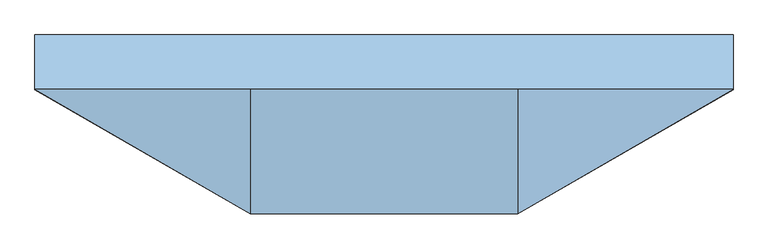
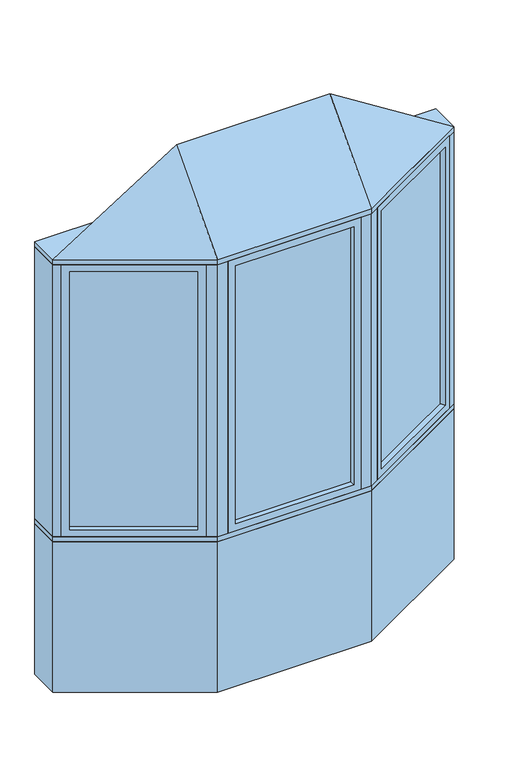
"""IFC4 building model written with IfcOpenShell, lengths in millimetres: window geometry, Pollard_Windows_Tudor Casement Bows and Bays : AML-BAY 30 AFR0614-08-600."""

import ifcopenshell
import ifcopenshell.guid

model = None  # the IFC model being written
_history = None  # IfcOwnerHistory: only IFC2X3 demands one
_inside = {}  # id of a spatial element -> (the spatial element, [elements in it])
_under = {}  # id of a project, library or spatial element -> (it, [spatial elements below it])
_declared = {}  # id of a project -> (the project, [libraries it declares])
_typed = {}  # id of a type object -> (the type object, [elements of that type])
_made_of = {}  # id of a material, layer set ... -> (it, [elements and type objects made of it])


def new_model(schema):
    """Start an empty IFC model of exactly this schema.

    Asked for "IFC4X3", IfcOpenShell would pick the latest addendum, in which some entities
    have other attributes; the version numbers below select the first issue.
    IFC2X3 requires an IfcOwnerHistory on every rooted entity: one is made here for all.
    """
    global model, _history
    if schema == "IFC4X3":
        model = ifcopenshell.file(schema_version=(4, 3, 0, 0))
    else:
        model = ifcopenshell.file(schema=schema)
    _inside.clear()
    _under.clear()
    _declared.clear()
    _typed.clear()
    _made_of.clear()
    _history = None
    if model.schema == "IFC2X3":
        org = make("IfcOrganization", Name="unknown")
        user = make(
            "IfcPersonAndOrganization",
            ThePerson=make("IfcPerson", FamilyName="unknown"),
            TheOrganization=org,
        )
        app = make(
            "IfcApplication",
            ApplicationDeveloper=org,
            Version="unknown",
            ApplicationFullName="unknown",
            ApplicationIdentifier="unknown",
        )
        _history = make(
            "IfcOwnerHistory",
            OwningUser=user,
            OwningApplication=app,
            ChangeAction="ADDED",
            CreationDate=0,
        )
    return model


def make(cls, **values):
    """One entity of the class cls with the attributes given. An attribute that is None is left unset."""
    return model.create_entity(
        cls, **{name: value for name, value in values.items() if value is not None}
    )


def rooted(cls, **values):
    """An entity with a GlobalId (a new one), such as an element, a storey or a relation."""
    return make(cls, GlobalId=ifcopenshell.guid.new(), OwnerHistory=_history, **values)


def si_unit(unit_type, name, prefix=None):
    """IfcSIUnit, for example si_unit("LENGTHUNIT", "METRE", prefix="MILLI")."""
    return make("IfcSIUnit", UnitType=unit_type, Prefix=prefix, Name=name)


def assignment(units):
    """IfcUnitAssignment: the units of a project."""
    return None if units is None else make("IfcUnitAssignment", Units=units)


def point(xyz):
    """IfcCartesianPoint."""
    return None if xyz is None else make("IfcCartesianPoint", Coordinates=xyz)


def direction(xyz):
    """IfcDirection."""
    return None if xyz is None else make("IfcDirection", DirectionRatios=xyz)


def frame(location, z_axis=None, x_axis=None):
    """IfcAxis2Placement3D, a coordinate frame: its origin and axes. An axis left out is left unset."""
    return make(
        "IfcAxis2Placement3D",
        Location=point(location),
        Axis=direction(z_axis),
        RefDirection=direction(x_axis),
    )


def origin():
    """The frame at (0, 0, 0) with its axes left unset."""
    return frame((0.0, 0.0, 0.0))


def origin_with_axes():
    """The frame at (0, 0, 0) with the z axis (0, 0, 1) and the x axis (1, 0, 0) written out."""
    return frame((0.0, 0.0, 0.0), z_axis=(0.0, 0.0, 1.0), x_axis=(1.0, 0.0, 0.0))


def place(relative_to, where):
    """IfcLocalPlacement: puts the frame where relative to a parent placement (None: the world)."""
    return make(
        "IfcLocalPlacement", PlacementRelTo=relative_to, RelativePlacement=where
    )


def context(
    kind, dimensions, precision=None, world=None, true_north=None, identifier=None
):
    """IfcGeometricRepresentationContext, for example the 3D "Model" context."""
    return make(
        "IfcGeometricRepresentationContext",
        ContextIdentifier=identifier,
        ContextType=kind,
        CoordinateSpaceDimension=dimensions,
        Precision=precision,
        WorldCoordinateSystem=world,
        TrueNorth=true_north,
    )


def project(units=None, contexts=None):
    """IfcProject with its units and contexts."""
    return rooted(
        "IfcProject",
        Name="project",
        RepresentationContexts=contexts,
        UnitsInContext=assignment(units),
    )


def spatial(cls, under=None, at=None, **own):
    """A site, building, storey or space (cls), placed at a placement, below another one or the project."""
    s = rooted(cls, ObjectPlacement=at, **own)
    if under is not None:
        _under.setdefault(under.id(), (under, []))[1].append(s)
    return s


def polyline(points):
    """IfcPolyline through the points."""
    return make("IfcPolyline", Points=[point(p) for p in points])


def outline(outer, holes=None, kind="AREA"):
    """IfcArbitraryClosedProfileDef: a profile drawn as a closed curve; with holes, ...WithVoids."""
    if holes is None:
        return make("IfcArbitraryClosedProfileDef", ProfileType=kind, OuterCurve=outer)
    return make(
        "IfcArbitraryProfileDefWithVoids",
        ProfileType=kind,
        OuterCurve=outer,
        InnerCurves=holes,
    )


def extrude(swept, where, along, depth):
    """IfcExtrudedAreaSolid: the profile swept, set in the frame where, extruded along a direction by depth."""
    return make(
        "IfcExtrudedAreaSolid",
        SweptArea=swept,
        Position=where,
        ExtrudedDirection=direction(along),
        Depth=depth,
    )


def faces_of(points, faces, orient=None, outer=None):
    """IfcFace entities. A face is a list of loops; a loop is a list of indices into points, from 0.

    orient and outer hold one flag for each loop. By default every Orientation is true, the
    first loop of a face is its IfcFaceOuterBound and the others are IfcFaceBound.
    """
    made = []
    for i, loops in enumerate(faces):
        bounds = []
        for j, loop in enumerate(loops):
            is_outer = j == 0 if outer is None else outer[i][j]
            bounds.append(
                make(
                    "IfcFaceOuterBound" if is_outer else "IfcFaceBound",
                    Bound=make("IfcPolyLoop", Polygon=[points[k] for k in loop]),
                    Orientation=True if orient is None else orient[i][j],
                )
            )
        made.append(make("IfcFace", Bounds=bounds))
    return made


def faceted_brep(points, faces, orient=None, outer=None, voids=None):
    """IfcFacetedBrep: a solid bounded by flat faces; with voids (closed shells), ...WithVoids."""
    shared = [point(p) for p in points]
    hull = make("IfcClosedShell", CfsFaces=faces_of(shared, faces, orient, outer))
    if voids is None:
        return make("IfcFacetedBrep", Outer=hull)
    return make(
        "IfcFacetedBrepWithVoids",
        Outer=hull,
        Voids=[
            make(cls, CfsFaces=faces_of(shared, fs, o, b)) for cls, fs, o, b in voids
        ],
    )


def shape(context_of_items, identifier, shape_type, items):
    """IfcShapeRepresentation: the items that make up one representation, for example the "Body"."""
    return make(
        "IfcShapeRepresentation",
        ContextOfItems=context_of_items,
        RepresentationIdentifier=identifier,
        RepresentationType=shape_type,
        Items=items,
    )


def source(mapping_origin, context_of_items, identifier, shape_type, items):
    """IfcRepresentationMap: a shape defined once, which mapped items show again and again."""
    return make(
        "IfcRepresentationMap",
        MappingOrigin=mapping_origin,
        MappedRepresentation=shape(context_of_items, identifier, shape_type, items),
    )


def transform(
    local_origin,
    x_axis=None,
    y_axis=None,
    z_axis=None,
    scale=None,
    scale2=None,
    scale3=None,
    uniform=True,
):
    """IfcCartesianTransformationOperator3D, or its non-uniform kind. x_axis, y_axis, z_axis: its Axis1, 2, 3."""
    if uniform:
        return make(
            "IfcCartesianTransformationOperator3D",
            Axis1=direction(x_axis),
            Axis2=direction(y_axis),
            LocalOrigin=point(local_origin),
            Scale=scale,
            Axis3=direction(z_axis),
        )
    return make(
        "IfcCartesianTransformationOperator3DnonUniform",
        Axis1=direction(x_axis),
        Axis2=direction(y_axis),
        LocalOrigin=point(local_origin),
        Scale=scale,
        Axis3=direction(z_axis),
        Scale2=scale2,
        Scale3=scale3,
    )


def mapped(mapping_source, mapping_target):
    """IfcMappedItem: shows the shape of a source again, moved by a transform."""
    return make(
        "IfcMappedItem", MappingSource=mapping_source, MappingTarget=mapping_target
    )


def made_of(thing, what):
    """Note that an element or type object is made of a material, layer set ...; save() writes the relation."""
    if what is not None:
        _made_of.setdefault(what.id(), (what, []))[1].append(thing)
    return thing


def element(
    cls,
    number,
    at=None,
    inside=None,
    cuts=None,
    type_object=None,
    material=None,
    context=None,
    identifier="Body",
    shape_type=None,
    held_by="IfcProductDefinitionShape",
    body=None,
    shapes=None,
    **own,
):
    """One element of the class cls, such as IfcWall. Its Tag is "e" and its number.

    at: its placement. inside: the storey or other place that contains it. cuts: it is an
    opening in that element (IfcRelVoidsElement). A single representation is given by context,
    identifier, shape_type and body (its items); several are given by shapes. held_by: the class
    of the entity that holds the representations. save() writes the other relations.
    """
    e = rooted(cls, Tag="e%d" % number, ObjectPlacement=at, **own)
    if body is not None:
        shapes = [shape(context, identifier, shape_type, body)]
    if shapes is not None:
        e.Representation = make(held_by, Representations=shapes)
    if inside is not None:
        _inside.setdefault(inside.id(), (inside, []))[1].append(e)
    if cuts is not None:
        rooted(
            "IfcRelVoidsElement", RelatingBuildingElement=cuts, RelatedOpeningElement=e
        )
    if type_object is not None:
        _typed.setdefault(type_object.id(), (type_object, []))[1].append(e)
    return made_of(e, material)


def aggregate(whole, parts):
    """IfcRelAggregates: a whole, such as a stair, and the parts it consists of."""
    return rooted("IfcRelAggregates", RelatingObject=whole, RelatedObjects=parts)


def save(model, path):
    """Write the relations noted so far, then the file.

    IfcRelAggregates (storeys below a building ...), IfcRelContainedInSpatialStructure (elements
    in a storey), IfcRelDefinesByType, IfcRelAssociatesMaterial and IfcRelDeclares: one each for
    every whole, place, type object, material and project.
    """
    for whole, parts in _under.values():
        aggregate(whole, parts)
    for where, things in _inside.values():
        rooted(
            "IfcRelContainedInSpatialStructure",
            RelatedElements=things,
            RelatingStructure=where,
        )
    for kind, things in _typed.values():
        rooted("IfcRelDefinesByType", RelatedObjects=things, RelatingType=kind)
    for what, things in _made_of.values():
        rooted("IfcRelAssociatesMaterial", RelatedObjects=things, RelatingMaterial=what)
    for by, libraries in _declared.values():
        rooted("IfcRelDeclares", RelatingContext=by, RelatedDefinitions=libraries)
    model.write(path)


def window_5f73b018(model_context):
    return source(origin(), model_context, "Body", "SolidModel", [
        extrude(outline(polyline([(913.112102, -82.0482469), (424.8834764, -363.9271754), (422.3434764, -359.5277664), (910.572102, -77.6488379), (913.112102, -82.0482469)])), frame((0.0, 0.0, 823.1628), z_axis=(0.0, 0.0, 1.0), x_axis=(1.0, 0.0, 0.0)), (0.0, 0.0, 1.0), 1353.6704),
        faceted_brep([(902.1135794, -88.3982469, 835.8628), (914.8135794, -110.3952922, 835.8628), (914.8135794, -110.3952922, 2164.1332), (902.1135794, -88.3982469, 2164.1332), (910.572102, -77.6488379, 823.1628), (913.112102, -82.0482469, 823.1628), (913.112102, -82.0482469, 2176.8332), (910.572102, -77.6488379, 2176.8332), (886.8735794, -62.0017926, 835.8628), (899.5735794, -83.9988379, 835.8628), (899.5735794, -83.9988379, 2164.1332), (886.8735794, -62.0017926, 2164.1332), (945.8734073, -92.4628922, 799.998), (917.9334073, -44.0693926, 799.998), (917.9334073, -44.0693926, 2199.998), (945.8734073, -92.4628922, 2199.998), (448.581999, -379.5742207, 2164.1332), (435.881999, -357.5771754, 2164.1332), (424.8834764, -363.9271754, 2176.8332), (422.3434764, -359.5277664, 2176.8332), (433.341999, -353.1777664, 2164.1332), (420.641999, -331.1807211, 2164.1332), (389.5821711, -349.1131211, 2199.998), (417.5221711, -397.5066207, 2199.998), (448.581999, -379.5742207, 835.8628), (435.881999, -357.5771754, 835.8628), (424.8834764, -363.9271754, 823.1628), (422.3434764, -359.5277664, 823.1628), (433.341999, -353.1777664, 835.8628), (420.641999, -331.1807211, 835.8628), (389.5821711, -349.1131211, 799.998), (417.5221711, -397.5066207, 799.998)], [[[0, 1, 2, 3]], [[4, 5, 6, 7]], [[8, 9, 10, 11]], [[12, 13, 14, 15]], [[3, 2, 16, 17]], [[7, 6, 18, 19]], [[11, 10, 20, 21]], [[15, 14, 22, 23]], [[17, 16, 24, 25]], [[19, 18, 26, 27]], [[21, 20, 28, 29]], [[23, 22, 30, 31]], [[25, 24, 1, 0]], [[5, 26, 18, 6], [3, 17, 25, 0]], [[27, 26, 5, 4]], [[7, 19, 27, 4], [9, 28, 20, 10]], [[29, 28, 9, 8]], [[13, 30, 22, 14], [11, 21, 29, 8]], [[31, 30, 13, 12]], [[15, 23, 31, 12], [1, 24, 16, 2]]]),
        extrude(outline(polyline([(-424.8834764, -363.9271754), (-913.112102, -82.0482469), (-910.572102, -77.6488379), (-422.3434764, -359.5277664), (-424.8834764, -363.9271754)])), frame((0.0, 0.0, 823.1628), z_axis=(0.0, 0.0, 1.0), x_axis=(1.0, 0.0, 0.0)), (0.0, 0.0, 1.0), 1353.6704),
        faceted_brep([(-433.341999, -353.1777664, 2164.1332), (-420.641999, -331.1807211, 2164.1332), (-420.641999, -331.1807211, 835.8628), (-433.341999, -353.1777664, 835.8628), (-424.8834764, -363.9271754, 2176.8332), (-422.3434764, -359.5277664, 2176.8332), (-422.3434764, -359.5277664, 823.1628), (-424.8834764, -363.9271754, 823.1628), (-448.581999, -379.5742207, 2164.1332), (-435.881999, -357.5771754, 2164.1332), (-435.881999, -357.5771754, 835.8628), (-448.581999, -379.5742207, 835.8628), (-389.5821711, -349.1131211, 2199.998), (-417.5221711, -397.5066207, 2199.998), (-417.5221711, -397.5066207, 799.998), (-389.5821711, -349.1131211, 799.998), (-886.8735794, -62.0017926, 835.8628), (-899.5735794, -83.9988379, 835.8628), (-910.572102, -77.6488379, 823.1628), (-913.112102, -82.0482469, 823.1628), (-902.1135794, -88.3982469, 835.8628), (-914.8135794, -110.3952922, 835.8628), (-945.8734073, -92.4628922, 799.998), (-917.9334073, -44.0693926, 799.998), (-886.8735794, -62.0017926, 2164.1332), (-899.5735794, -83.9988379, 2164.1332), (-910.572102, -77.6488379, 2176.8332), (-913.112102, -82.0482469, 2176.8332), (-902.1135794, -88.3982469, 2164.1332), (-914.8135794, -110.3952922, 2164.1332), (-945.8734073, -92.4628922, 2199.998), (-917.9334073, -44.0693926, 2199.998)], [[[0, 1, 2, 3]], [[4, 5, 6, 7]], [[8, 9, 10, 11]], [[12, 13, 14, 15]], [[3, 2, 16, 17]], [[7, 6, 18, 19]], [[11, 10, 20, 21]], [[15, 14, 22, 23]], [[17, 16, 24, 25]], [[19, 18, 26, 27]], [[21, 20, 28, 29]], [[23, 22, 30, 31]], [[15, 23, 31, 12], [1, 24, 16, 2]], [[25, 24, 1, 0]], [[5, 26, 18, 6], [3, 17, 25, 0]], [[27, 26, 5, 4]], [[7, 19, 27, 4], [9, 28, 20, 10]], [[29, 28, 9, 8]], [[13, 30, 22, 14], [11, 21, 29, 8]], [[31, 30, 13, 12]]]),
        extrude(outline(polyline([(301.0561009, -397.1066207), (-301.0561009, -397.1066207), (-301.0561009, -392.0266207), (301.0561009, -392.0266207), (301.0561009, -397.1066207)])), frame((0.0, 0.0, 823.1628), z_axis=(0.0, 0.0, 1.0), x_axis=(1.0, 0.0, 0.0)), (0.0, 0.0, 1.0), 1353.6704),
        faceted_brep([(288.3561009, -397.1066207, 835.8628), (288.3561009, -422.5066207, 835.8628), (288.3561009, -422.5066207, 2164.1332), (288.3561009, -397.1066207, 2164.1332), (301.0561009, -392.0266207, 823.1628), (301.0561009, -397.1066207, 823.1628), (301.0561009, -397.1066207, 2176.8332), (301.0561009, -392.0266207, 2176.8332), (288.3561009, -366.6266207, 835.8628), (288.3561009, -392.0266207, 835.8628), (288.3561009, -392.0266207, 2164.1332), (288.3561009, -366.6266207, 2164.1332), (324.2209009, -422.5066207, 799.998), (324.2209009, -366.6266207, 799.998), (324.2209009, -366.6266207, 2199.998), (324.2209009, -422.5066207, 2199.998), (-288.3561009, -422.5066207, 2164.1332), (-288.3561009, -397.1066207, 2164.1332), (-301.0561009, -397.1066207, 2176.8332), (-301.0561009, -392.0266207, 2176.8332), (-288.3561009, -392.0266207, 2164.1332), (-288.3561009, -366.6266207, 2164.1332), (-324.2209009, -366.6266207, 2199.998), (-324.2209009, -422.5066207, 2199.998), (-288.3561009, -422.5066207, 835.8628), (-288.3561009, -397.1066207, 835.8628), (-301.0561009, -397.1066207, 823.1628), (-301.0561009, -392.0266207, 823.1628), (-288.3561009, -392.0266207, 835.8628), (-288.3561009, -366.6266207, 835.8628), (-324.2209009, -366.6266207, 799.998), (-324.2209009, -422.5066207, 799.998)], [[[0, 1, 2, 3]], [[4, 5, 6, 7]], [[8, 9, 10, 11]], [[12, 13, 14, 15]], [[3, 2, 16, 17]], [[7, 6, 18, 19]], [[11, 10, 20, 21]], [[15, 14, 22, 23]], [[17, 16, 24, 25]], [[19, 18, 26, 27]], [[21, 20, 28, 29]], [[23, 22, 30, 31]], [[15, 23, 31, 12], [1, 24, 16, 2]], [[25, 24, 1, 0]], [[5, 26, 18, 6], [3, 17, 25, 0]], [[27, 26, 5, 4]], [[7, 19, 27, 4], [9, 28, 20, 10]], [[29, 28, 9, 8]], [[13, 30, 22, 14], [11, 21, 29, 8]], [[31, 30, 13, 12]]]),
        faceted_brep([(976.5, -74.7806207, 2225.398), (374.2209009, -422.5066207, 2225.398), (-374.2209009, -422.5066207, 2225.398), (-976.5, -74.7806207, 2225.398), (-374.2209009, -74.7806207, 2606.398), (374.2209009, -74.7806207, 2606.398)], [[[0, 1, 2, 3]], [[3, 2, 4]], [[2, 1, 5, 4]], [[1, 0, 5]], [[0, 3, 4, 5]]]),
        extrude(outline(polyline([(-976.5, 77.6193793), (976.5, 77.6193793), (976.5, -74.7806207), (374.2209009, -422.5066207), (-374.2209009, -422.5066207), (-976.5, -74.7806207), (-976.5, 77.6193793)])), frame((0.0, 0.0, 2199.998), z_axis=(0.0, 0.0, 1.0), x_axis=(1.0, 0.0, 0.0)), (0.0, 0.0, 1.0), 25.4),
        extrude(outline(polyline([(-976.5, -74.7806207), (-976.5, 77.6193793), (-935.6645431, 77.6193793), (-935.6645431, -74.7806207), (-945.8734073, -92.4628922), (-976.5, -74.7806207)])), frame((0.0, 0.0, 799.998), z_axis=(0.0, 0.0, 1.0), x_axis=(1.0, 0.0, 0.0)), (0.0, 0.0, 1.0), 1400.0),
        extrude(outline(polyline([(976.5, 77.6193793), (976.5, -74.7806207), (945.8734073, -92.4628922), (935.6645431, -74.7806207), (935.6645431, 77.6193793), (976.5, 77.6193793)])), frame((0.0, 0.0, 799.998), z_axis=(0.0, 0.0, 1.0), x_axis=(1.0, 0.0, 0.0)), (0.0, 0.0, 1.0), 1400.0),
        extrude(outline(polyline([(374.2209009, -422.5066207), (324.2209009, -422.5066207), (324.2209009, -372.5066207), (360.8234413, -372.5066207), (392.5221711, -354.2053505), (417.5221711, -397.5066207), (374.2209009, -422.5066207)])), frame((0.0, 0.0, 799.998), z_axis=(0.0, 0.0, 1.0), x_axis=(1.0, 0.0, 0.0)), (0.0, 0.0, 1.0), 1400.0),
        extrude(outline(polyline([(-374.2209009, -422.5066207), (-417.5221711, -397.5066207), (-392.5221711, -354.2053505), (-360.8234413, -372.5066207), (-324.2209009, -372.5066207), (-324.2209009, -422.5066207), (-374.2209009, -422.5066207)])), frame((0.0, 0.0, 799.998), z_axis=(0.0, 0.0, 1.0), x_axis=(1.0, 0.0, 0.0)), (0.0, 0.0, 1.0), 1400.0),
        extrude(outline(polyline([(-374.2209009, -422.5066207), (-976.5, -74.7806207), (-976.5, 77.6193793), (-935.6645431, 77.6193793), (-333.385444, -270.1066207), (333.385444, -270.1066207), (935.6645431, 77.6193793), (976.5, 77.6193793), (976.5, -74.7806207), (374.2209009, -422.5066207), (-374.2209009, -422.5066207)])), frame((0.0, 0.0, 774.598), z_axis=(0.0, 0.0, 1.0), x_axis=(1.0, 0.0, 0.0)), (0.0, 0.0, 1.0), 25.4),
        extrude(outline(polyline([(-976.5, -74.7806207), (-976.5, 77.6193793), (-935.6645431, 77.6193793), (-333.385444, -270.1066207), (333.385444, -270.1066207), (935.6645431, 77.6193793), (976.5, 77.6193793), (976.5, -74.7806207), (374.2209009, -422.5066207), (-374.2209009, -422.5066207), (-976.5, -74.7806207)])), origin_with_axes(), (0.0, 0.0, 1.0), 774.598),
    ])


if __name__ == "__main__":
    model = new_model("IFC4")
    model_context = context("Model", 3, world=origin())
    ifc_project = project(units=[si_unit("LENGTHUNIT", "METRE", prefix="MILLI")], contexts=[model_context])
    site = spatial("IfcSite", under=ifc_project)
    building = spatial("IfcBuilding", under=site)
    placement = place(None, origin())
    window_shape = window_5f73b018(model_context)
    element("IfcWindow", 1, ObjectType="Pollard_Windows_Tudor Casement Bows and Bays : AML-BAY 30 AFR0614-08-600", at=placement, inside=building, context=model_context, shape_type="MappedRepresentation", body=[
        mapped(window_shape, transform((0.0, 0.0, 0.0), x_axis=(1.0, 0.0, 0.0), y_axis=(0.0, 1.0, 0.0), z_axis=(0.0, 0.0, 1.0))),
    ])
    save(model, "model.ifc")
